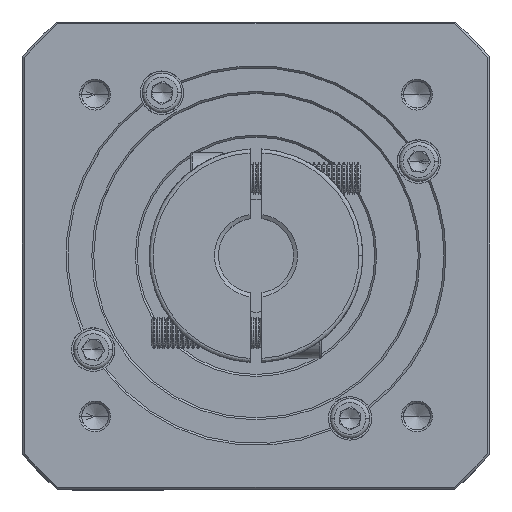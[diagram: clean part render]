
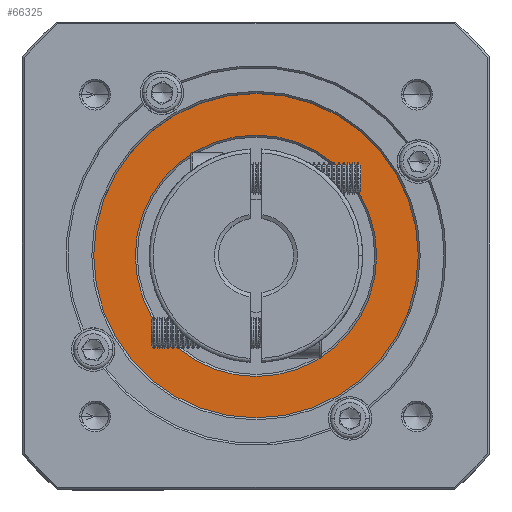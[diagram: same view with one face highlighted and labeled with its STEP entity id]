
A CAD part, top view. The second image highlights one B-rep face of the part: STEP entity #66325.
In plain terms, the highlighted planar face has unit normal (0, 0, 1).
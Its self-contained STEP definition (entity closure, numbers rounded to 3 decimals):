
#268 = CARTESIAN_POINT ( 'NONE',  ( 31.343, -80.873, -54.022 ) ) ;
#1260 = CIRCLE ( 'NONE', #79420, 41. ) ;
#4077 = EDGE_CURVE ( 'NONE', #21582, #33619, #33688, .T. ) ;
#7282 = CARTESIAN_POINT ( 'NONE',  ( 72.343, -80.873, -54.022 ) ) ;
#14749 = EDGE_CURVE ( 'NONE', #33619, #21582, #1260, .T. ) ;
#16780 = ORIENTED_EDGE ( 'NONE', *, *, #14749, .T. ) ;
#19763 = CARTESIAN_POINT ( 'NONE',  ( 72.343, -50.373, -54.022 ) ) ;
#21582 = VERTEX_POINT ( 'NONE', #268 ) ;
#23439 = FACE_BOUND ( 'NONE', #110190, .T. ) ;
#27154 = CARTESIAN_POINT ( 'NONE',  ( 72.343, -80.873, -54.022 ) ) ;
#29019 = EDGE_CURVE ( 'NONE', #62386, #65675, #35316, .T. ) ;
#30515 = FACE_OUTER_BOUND ( 'NONE', #77437, .T. ) ;
#32597 = DIRECTION ( 'NONE',  ( 0., 0., 1. ) ) ;
#33619 = VERTEX_POINT ( 'NONE', #56217 ) ;
#33688 = CIRCLE ( 'NONE', #50052, 41. ) ;
#35316 = CIRCLE ( 'NONE', #84486, 30.5 ) ;
#41531 = DIRECTION ( 'NONE',  ( 0., -1., 0. ) ) ;
#43385 = DIRECTION ( 'NONE',  ( 1., 0., 0. ) ) ;
#50052 = AXIS2_PLACEMENT_3D ( 'NONE', #7282, #107573, #80099 ) ;
#51165 = DIRECTION ( 'NONE',  ( 1., 0., 0. ) ) ;
#51402 = DIRECTION ( 'NONE',  ( 0., 0., -1. ) ) ;
#51729 = ORIENTED_EDGE ( 'NONE', *, *, #110427, .T. ) ;
#54625 = CARTESIAN_POINT ( 'NONE',  ( 72.343, -80.873, -54.022 ) ) ;
#56217 = CARTESIAN_POINT ( 'NONE',  ( 113.343, -80.873, -54.022 ) ) ;
#62386 = VERTEX_POINT ( 'NONE', #62627 ) ;
#62627 = CARTESIAN_POINT ( 'NONE',  ( 72.343, -111.373, -54.022 ) ) ;
#65675 = VERTEX_POINT ( 'NONE', #19763 ) ;
#66325 = ADVANCED_FACE ( 'NONE', ( #30515, #23439 ), #86558, .T. ) ;
#70207 = CIRCLE ( 'NONE', #94599, 30.5 ) ;
#77437 = EDGE_LOOP ( 'NONE', ( #16780, #103690 ) ) ;
#79420 = AXIS2_PLACEMENT_3D ( 'NONE', #27154, #88985, #43385 ) ;
#80099 = DIRECTION ( 'NONE',  ( 1., 0., 0. ) ) ;
#84486 = AXIS2_PLACEMENT_3D ( 'NONE', #104029, #51402, #41531 ) ;
#86558 = PLANE ( 'NONE',  #104027 ) ;
#88985 = DIRECTION ( 'NONE',  ( 0., 0., 1. ) ) ;
#91188 = ORIENTED_EDGE ( 'NONE', *, *, #29019, .T. ) ;
#94599 = AXIS2_PLACEMENT_3D ( 'NONE', #54625, #116258, #107660 ) ;
#96307 = CARTESIAN_POINT ( 'NONE',  ( 72.343, -80.873, -54.022 ) ) ;
#103690 = ORIENTED_EDGE ( 'NONE', *, *, #4077, .T. ) ;
#104027 = AXIS2_PLACEMENT_3D ( 'NONE', #96307, #32597, #51165 ) ;
#104029 = CARTESIAN_POINT ( 'NONE',  ( 72.343, -80.873, -54.022 ) ) ;
#107573 = DIRECTION ( 'NONE',  ( 0., 0., 1. ) ) ;
#107660 = DIRECTION ( 'NONE',  ( 0., -1., 0. ) ) ;
#110190 = EDGE_LOOP ( 'NONE', ( #91188, #51729 ) ) ;
#110427 = EDGE_CURVE ( 'NONE', #65675, #62386, #70207, .T. ) ;
#116258 = DIRECTION ( 'NONE',  ( 0., 0., -1. ) ) ;
